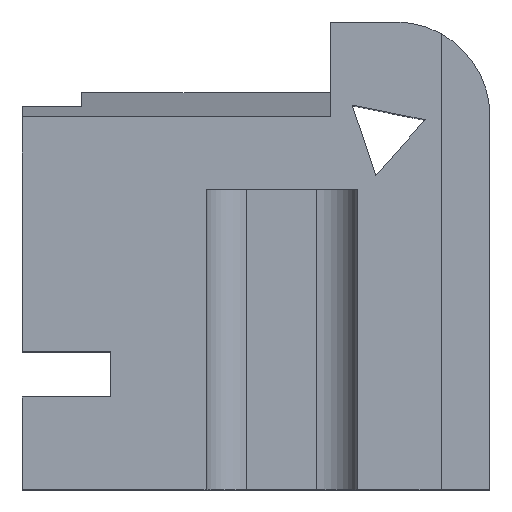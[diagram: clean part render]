
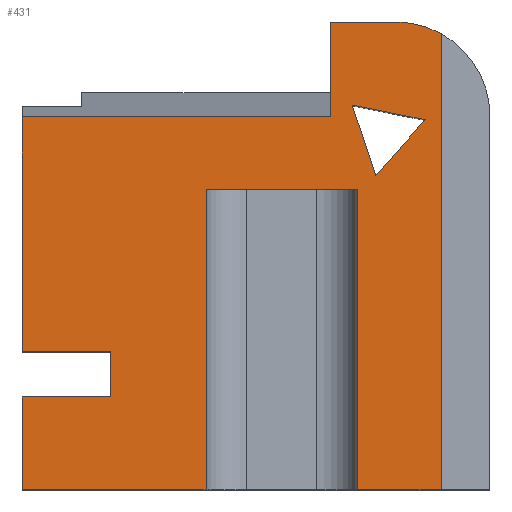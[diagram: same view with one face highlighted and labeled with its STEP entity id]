
A CAD part, top view. The second image highlights one B-rep face of the part: STEP entity #431.
In plain terms, the highlighted planar face has unit normal (0, 0, 1).
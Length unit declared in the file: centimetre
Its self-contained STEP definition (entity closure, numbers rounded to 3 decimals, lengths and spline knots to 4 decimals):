
#6 = VECTOR ( 'NONE', #135, 100. ) ;
#11 = CARTESIAN_POINT ( 'NONE',  ( 896.0043, 0., 1000. ) ) ;
#12 = LINE ( 'NONE', #315, #166 ) ;
#22 = CIRCLE ( 'NONE', #513, 201.1306 ) ;
#23 = CARTESIAN_POINT ( 'NONE',  ( 756.4212, 671.7758, 1000. ) ) ;
#30 = EDGE_CURVE ( 'NONE', #656, #795, #411, .T. ) ;
#45 = EDGE_CURVE ( 'NONE', #1024, #608, #1122, .T. ) ;
#60 = VERTEX_POINT ( 'NONE', #23 ) ;
#64 = EDGE_CURVE ( 'NONE', #497, #608, #938, .T. ) ;
#75 = ORIENTED_EDGE ( 'NONE', *, *, #231, .F. ) ;
#90 = CARTESIAN_POINT ( 'NONE',  ( 393.1287, 0., 1000. ) ) ;
#94 = EDGE_CURVE ( 'NONE', #817, #1217, #12, .T. ) ;
#109 = CARTESIAN_POINT ( 'NONE',  ( 0., 0., 1000. ) ) ;
#115 = VECTOR ( 'NONE', #358, 100. ) ;
#128 = DIRECTION ( 'NONE',  ( 0., -1., 0. ) ) ;
#135 = DIRECTION ( 'NONE',  ( 0., -1., 0. ) ) ;
#141 = EDGE_CURVE ( 'NONE', #978, #283, #302, .T. ) ;
#142 = CARTESIAN_POINT ( 'NONE',  ( 393.1287, 642.6796, 1000. ) ) ;
#150 = VERTEX_POINT ( 'NONE', #151 ) ;
#151 = CARTESIAN_POINT ( 'NONE',  ( 896.0043, 974.9896, 1000. ) ) ;
#153 = CARTESIAN_POINT ( 'NONE',  ( 705.7094, 822.4904, 1000. ) ) ;
#166 = VECTOR ( 'NONE', #128, 100. ) ;
#185 = CARTESIAN_POINT ( 'NONE',  ( 861.5881, 791.0508, 1000. ) ) ;
#186 = ORIENTED_EDGE ( 'NONE', *, *, #327, .F. ) ;
#206 = VERTEX_POINT ( 'NONE', #241 ) ;
#209 = CARTESIAN_POINT ( 'NONE',  ( 0., 1000., 1000. ) ) ;
#214 = DIRECTION ( 'NONE',  ( 1., 0., 0. ) ) ;
#229 = ORIENTED_EDGE ( 'NONE', *, *, #288, .T. ) ;
#231 = EDGE_CURVE ( 'NONE', #150, #795, #835, .T. ) ;
#240 = DIRECTION ( 'NONE',  ( -1., 0., 0. ) ) ;
#241 = CARTESIAN_POINT ( 'NONE',  ( 0., 295.5969, 1000. ) ) ;
#244 = CARTESIAN_POINT ( 'NONE',  ( 659.2016, 797.1027, 1000. ) ) ;
#250 = VECTOR ( 'NONE', #240, 100. ) ;
#252 = DIRECTION ( 'NONE',  ( 0., 1., 0. ) ) ;
#283 = VERTEX_POINT ( 'NONE', #1160 ) ;
#285 = CARTESIAN_POINT ( 'NONE',  ( 0., 0., 1000. ) ) ;
#286 = ORIENTED_EDGE ( 'NONE', *, *, #548, .T. ) ;
#288 = EDGE_CURVE ( 'NONE', #463, #497, #948, .T. ) ;
#302 = LINE ( 'NONE', #209, #484 ) ;
#307 = ORIENTED_EDGE ( 'NONE', *, *, #782, .T. ) ;
#315 = CARTESIAN_POINT ( 'NONE',  ( 189.3224, 198.34, 1000. ) ) ;
#317 = VECTOR ( 'NONE', #1146, 100. ) ;
#327 = EDGE_CURVE ( 'NONE', #656, #595, #672, .T. ) ;
#331 = CARTESIAN_POINT ( 'NONE',  ( 0., 1000., 1000. ) ) ;
#342 = LINE ( 'NONE', #1230, #460 ) ;
#343 = ORIENTED_EDGE ( 'NONE', *, *, #912, .T. ) ;
#345 = CARTESIAN_POINT ( 'NONE',  ( 798.8694, 1000., 1000. ) ) ;
#349 = CARTESIAN_POINT ( 'NONE',  ( 0., 1000., 1000. ) ) ;
#353 = LINE ( 'NONE', #547, #830 ) ;
#358 = DIRECTION ( 'NONE',  ( -1., 0., 0. ) ) ;
#385 = LINE ( 'NONE', #1219, #619 ) ;
#390 = ORIENTED_EDGE ( 'NONE', *, *, #434, .T. ) ;
#411 = LINE ( 'NONE', #109, #1082 ) ;
#422 = VECTOR ( 'NONE', #473, 100. ) ;
#428 = DIRECTION ( 'NONE',  ( 0., -1., 0. ) ) ;
#431 = ADVANCED_FACE ( 'NONE', ( #848, #1205 ), #698, .T. ) ;
#434 = EDGE_CURVE ( 'NONE', #150, #978, #22, .T. ) ;
#444 = DIRECTION ( 'NONE',  ( 0., -1., 0. ) ) ;
#460 = VECTOR ( 'NONE', #826, 100. ) ;
#463 = VERTEX_POINT ( 'NONE', #1198 ) ;
#473 = DIRECTION ( 'NONE',  ( 0., 1., 0. ) ) ;
#484 = VECTOR ( 'NONE', #827, 100. ) ;
#489 = VERTEX_POINT ( 'NONE', #185 ) ;
#497 = VERTEX_POINT ( 'NONE', #1001 ) ;
#501 = DIRECTION ( 'NONE',  ( 1., 0., 0. ) ) ;
#507 = DIRECTION ( 'NONE',  ( -0.661, -0.75, 0. ) ) ;
#509 = DIRECTION ( 'NONE',  ( 0., -1., 0. ) ) ;
#513 = AXIS2_PLACEMENT_3D ( 'NONE', #904, #874, #1280 ) ;
#538 = EDGE_CURVE ( 'NONE', #1017, #489, #1113, .T. ) ;
#539 = CARTESIAN_POINT ( 'NONE',  ( 705.7094, 822.4904, 1000. ) ) ;
#547 = CARTESIAN_POINT ( 'NONE',  ( 659.2016, 1000., 1000. ) ) ;
#548 = EDGE_CURVE ( 'NONE', #489, #60, #385, .T. ) ;
#566 = CARTESIAN_POINT ( 'NONE',  ( 716.5745, 642.6796, 1000. ) ) ;
#587 = ORIENTED_EDGE ( 'NONE', *, *, #637, .T. ) ;
#592 = ORIENTED_EDGE ( 'NONE', *, *, #1015, .T. ) ;
#593 = CARTESIAN_POINT ( 'NONE',  ( 861.5881, 791.0508, 1000. ) ) ;
#595 = VERTEX_POINT ( 'NONE', #1030 ) ;
#596 = VECTOR ( 'NONE', #428, 100. ) ;
#608 = VERTEX_POINT ( 'NONE', #90 ) ;
#619 = VECTOR ( 'NONE', #507, 100. ) ;
#637 = EDGE_CURVE ( 'NONE', #206, #817, #1096, .T. ) ;
#656 = VERTEX_POINT ( 'NONE', #697 ) ;
#659 = CARTESIAN_POINT ( 'NONE',  ( 189.3224, 198.34, 1000. ) ) ;
#672 = LINE ( 'NONE', #566, #422 ) ;
#680 = DIRECTION ( 'NONE',  ( 0.98, -0.198, 0. ) ) ;
#687 = EDGE_LOOP ( 'NONE', ( #1028, #851, #286 ) ) ;
#692 = VERTEX_POINT ( 'NONE', #962 ) ;
#697 = CARTESIAN_POINT ( 'NONE',  ( 716.5745, 0., 1000. ) ) ;
#698 = PLANE ( 'NONE',  #1084 ) ;
#717 = CARTESIAN_POINT ( 'NONE',  ( 0., 295.5969, 1000. ) ) ;
#733 = EDGE_CURVE ( 'NONE', #1024, #595, #342, .T. ) ;
#758 = LINE ( 'NONE', #1069, #250 ) ;
#774 = ORIENTED_EDGE ( 'NONE', *, *, #733, .T. ) ;
#782 = EDGE_CURVE ( 'NONE', #1098, #692, #758, .T. ) ;
#788 = VECTOR ( 'NONE', #501, 100. ) ;
#795 = VERTEX_POINT ( 'NONE', #11 ) ;
#805 = DIRECTION ( 'NONE',  ( 0., 0., 1. ) ) ;
#806 = EDGE_LOOP ( 'NONE', ( #343, #229, #977, #1296, #774, #186, #1065, #75, #390, #1070, #810, #307, #592, #587, #871 ) ) ;
#810 = ORIENTED_EDGE ( 'NONE', *, *, #1108, .F. ) ;
#817 = VERTEX_POINT ( 'NONE', #1037 ) ;
#826 = DIRECTION ( 'NONE',  ( 1., 0., 0. ) ) ;
#827 = DIRECTION ( 'NONE',  ( -1., 0., 0. ) ) ;
#830 = VECTOR ( 'NONE', #252, 100. ) ;
#835 = LINE ( 'NONE', #1050, #889 ) ;
#847 = DIRECTION ( 'NONE',  ( -0.319, 0.948, 0. ) ) ;
#848 = FACE_OUTER_BOUND ( 'NONE', #806, .T. ) ;
#851 = ORIENTED_EDGE ( 'NONE', *, *, #538, .T. ) ;
#871 = ORIENTED_EDGE ( 'NONE', *, *, #94, .T. ) ;
#874 = DIRECTION ( 'NONE',  ( 0., 0., 1. ) ) ;
#889 = VECTOR ( 'NONE', #444, 100. ) ;
#895 = DIRECTION ( 'NONE',  ( 1., 0., 0. ) ) ;
#904 = CARTESIAN_POINT ( 'NONE',  ( 798.8694, 798.8694, 1000. ) ) ;
#912 = EDGE_CURVE ( 'NONE', #1217, #463, #1156, .T. ) ;
#918 = VECTOR ( 'NONE', #509, 100. ) ;
#921 = CARTESIAN_POINT ( 'NONE',  ( 0., 0., 1000. ) ) ;
#938 = LINE ( 'NONE', #921, #317 ) ;
#948 = LINE ( 'NONE', #349, #596 ) ;
#961 = LINE ( 'NONE', #153, #1195 ) ;
#962 = CARTESIAN_POINT ( 'NONE',  ( 0., 797.1027, 1000. ) ) ;
#977 = ORIENTED_EDGE ( 'NONE', *, *, #64, .T. ) ;
#978 = VERTEX_POINT ( 'NONE', #345 ) ;
#1001 = CARTESIAN_POINT ( 'NONE',  ( 0., 0., 1000. ) ) ;
#1015 = EDGE_CURVE ( 'NONE', #692, #206, #1153, .T. ) ;
#1017 = VERTEX_POINT ( 'NONE', #539 ) ;
#1024 = VERTEX_POINT ( 'NONE', #142 ) ;
#1028 = ORIENTED_EDGE ( 'NONE', *, *, #1035, .T. ) ;
#1030 = CARTESIAN_POINT ( 'NONE',  ( 716.5745, 642.6796, 1000. ) ) ;
#1035 = EDGE_CURVE ( 'NONE', #60, #1017, #961, .T. ) ;
#1037 = CARTESIAN_POINT ( 'NONE',  ( 189.3224, 295.5969, 1000. ) ) ;
#1046 = VECTOR ( 'NONE', #680, 100. ) ;
#1050 = CARTESIAN_POINT ( 'NONE',  ( 896.0043, 1000., 1000. ) ) ;
#1065 = ORIENTED_EDGE ( 'NONE', *, *, #30, .T. ) ;
#1069 = CARTESIAN_POINT ( 'NONE',  ( 659.2016, 797.1027, 1000. ) ) ;
#1070 = ORIENTED_EDGE ( 'NONE', *, *, #141, .T. ) ;
#1082 = VECTOR ( 'NONE', #214, 100. ) ;
#1084 = AXIS2_PLACEMENT_3D ( 'NONE', #285, #805, #895 ) ;
#1096 = LINE ( 'NONE', #717, #788 ) ;
#1098 = VERTEX_POINT ( 'NONE', #244 ) ;
#1108 = EDGE_CURVE ( 'NONE', #1098, #283, #353, .T. ) ;
#1113 = LINE ( 'NONE', #593, #1046 ) ;
#1122 = LINE ( 'NONE', #1136, #918 ) ;
#1136 = CARTESIAN_POINT ( 'NONE',  ( 393.1287, 642.6796, 1000. ) ) ;
#1146 = DIRECTION ( 'NONE',  ( 1., 0., 0. ) ) ;
#1153 = LINE ( 'NONE', #331, #6 ) ;
#1156 = LINE ( 'NONE', #1273, #115 ) ;
#1160 = CARTESIAN_POINT ( 'NONE',  ( 659.2016, 1000., 1000. ) ) ;
#1195 = VECTOR ( 'NONE', #847, 100. ) ;
#1198 = CARTESIAN_POINT ( 'NONE',  ( 0., 198.34, 1000. ) ) ;
#1205 = FACE_BOUND ( 'NONE', #687, .T. ) ;
#1217 = VERTEX_POINT ( 'NONE', #659 ) ;
#1219 = CARTESIAN_POINT ( 'NONE',  ( 756.4212, 671.7758, 1000. ) ) ;
#1230 = CARTESIAN_POINT ( 'NONE',  ( 0., 642.6796, 1000. ) ) ;
#1273 = CARTESIAN_POINT ( 'NONE',  ( 0., 198.34, 1000. ) ) ;
#1280 = DIRECTION ( 'NONE',  ( 1., 0., 0. ) ) ;
#1296 = ORIENTED_EDGE ( 'NONE', *, *, #45, .F. ) ;
